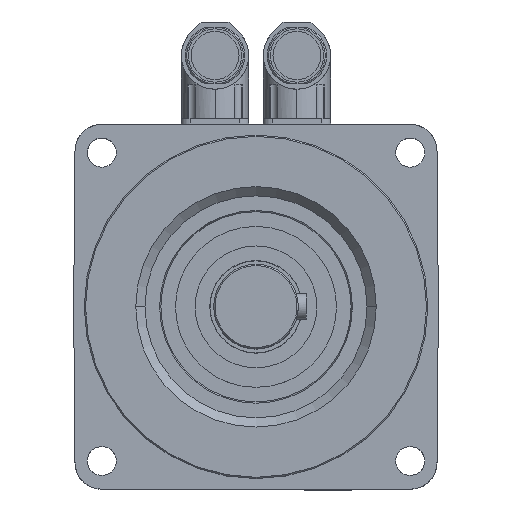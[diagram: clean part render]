
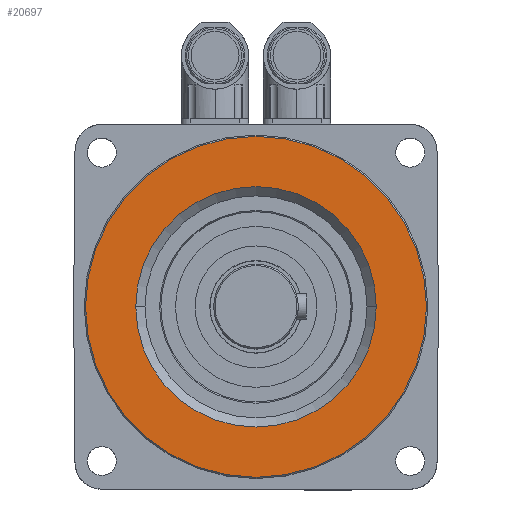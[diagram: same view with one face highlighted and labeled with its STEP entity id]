
A CAD part, top view. The second image highlights one B-rep face of the part: STEP entity #20697.
In plain terms, the highlighted planar face has unit normal (0, 0, 1).
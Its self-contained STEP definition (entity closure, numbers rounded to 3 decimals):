
#13226 = DIRECTION ( 'NONE',  ( -1., 0., 0. ) ) ;
#13227 = DIRECTION ( 'NONE',  ( 0., 0., -1. ) ) ;
#13228 = CARTESIAN_POINT ( 'NONE',  ( 0., 0., 2.46 ) ) ;
#13229 = AXIS2_PLACEMENT_3D ( 'NONE', #13228, #13227, #13226 ) ;
#13230 = CIRCLE ( 'NONE', #13229, 45.5 ) ;
#13247 = CARTESIAN_POINT ( 'NONE',  ( -45.5, 0., 2.46 ) ) ;
#13373 = CARTESIAN_POINT ( 'NONE',  ( 45.5, 0., 2.46 ) ) ;
#20520 = EDGE_CURVE ( 'NONE', #20521, #20522, #30006, .T. ) ;
#20521 = VERTEX_POINT ( 'NONE', #29997 ) ;
#20522 = VERTEX_POINT ( 'NONE', #29996 ) ;
#20697 = ADVANCED_FACE ( 'NONE', ( #30407, #30406 ), #30443, .T. ) ;
#20698 = ORIENTED_EDGE ( 'NONE', *, *, #20699, .T. ) ;
#20699 = EDGE_CURVE ( 'NONE', #20522, #20521, #30437, .T. ) ;
#20700 = ORIENTED_EDGE ( 'NONE', *, *, #20520, .T. ) ;
#20701 = EDGE_LOOP ( 'NONE', ( #20702, #20703 ) ) ;
#20702 = ORIENTED_EDGE ( 'NONE', *, *, #24782, .T. ) ;
#20703 = ORIENTED_EDGE ( 'NONE', *, *, #20704, .T. ) ;
#20704 = EDGE_CURVE ( 'NONE', #24796, #24820, #30433, .T. ) ;
#20767 = EDGE_LOOP ( 'NONE', ( #20698, #20700 ) ) ;
#24782 = EDGE_CURVE ( 'NONE', #24820, #24796, #13230, .T. ) ;
#24796 = VERTEX_POINT ( 'NONE', #13247 ) ;
#24820 = VERTEX_POINT ( 'NONE', #13373 ) ;
#29996 = CARTESIAN_POINT ( 'NONE',  ( -64.5, 0., 2.46 ) ) ;
#29997 = CARTESIAN_POINT ( 'NONE',  ( 64.5, 0., 2.46 ) ) ;
#29998 = DIRECTION ( 'NONE',  ( 1., 0., 0. ) ) ;
#29999 = DIRECTION ( 'NONE',  ( 0., 0., 1. ) ) ;
#30000 = CARTESIAN_POINT ( 'NONE',  ( 0., 0., 2.46 ) ) ;
#30001 = AXIS2_PLACEMENT_3D ( 'NONE', #30000, #29999, #29998 ) ;
#30006 = CIRCLE ( 'NONE', #30001, 64.5 ) ;
#30406 = FACE_BOUND ( 'NONE', #20701, .T. ) ;
#30407 = FACE_OUTER_BOUND ( 'NONE', #20767, .T. ) ;
#30429 = DIRECTION ( 'NONE',  ( -1., 0., 0. ) ) ;
#30430 = DIRECTION ( 'NONE',  ( 0., 0., -1. ) ) ;
#30431 = CARTESIAN_POINT ( 'NONE',  ( 0., 0., 2.46 ) ) ;
#30432 = AXIS2_PLACEMENT_3D ( 'NONE', #30431, #30430, #30429 ) ;
#30433 = CIRCLE ( 'NONE', #30432, 45.5 ) ;
#30434 = DIRECTION ( 'NONE',  ( 1., 0., 0. ) ) ;
#30435 = DIRECTION ( 'NONE',  ( 0., 0., 1. ) ) ;
#30436 = AXIS2_PLACEMENT_3D ( 'NONE', #30442, #30435, #30434 ) ;
#30437 = CIRCLE ( 'NONE', #30436, 64.5 ) ;
#30438 = DIRECTION ( 'NONE',  ( 1., 0., 0. ) ) ;
#30439 = DIRECTION ( 'NONE',  ( 0., 0., 1. ) ) ;
#30440 = CARTESIAN_POINT ( 'NONE',  ( 0., 64.5, 2.46 ) ) ;
#30441 = AXIS2_PLACEMENT_3D ( 'NONE', #30440, #30439, #30438 ) ;
#30442 = CARTESIAN_POINT ( 'NONE',  ( 0., 0., 2.46 ) ) ;
#30443 = PLANE ( 'NONE',  #30441 ) ;
